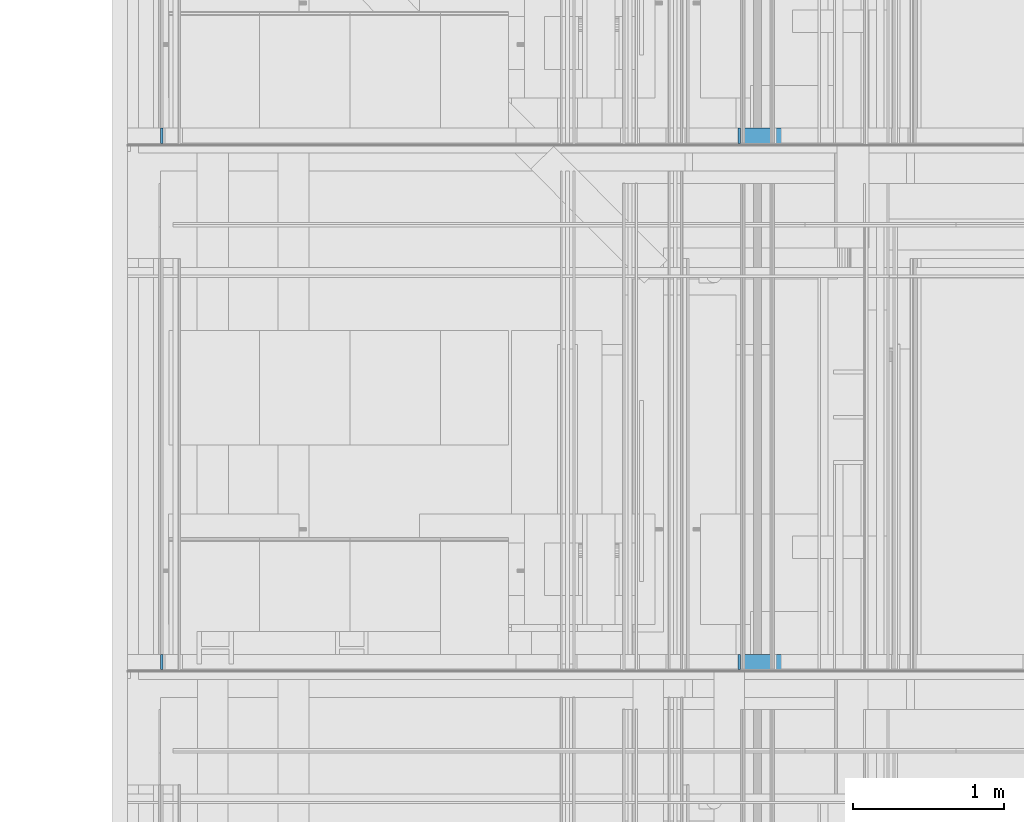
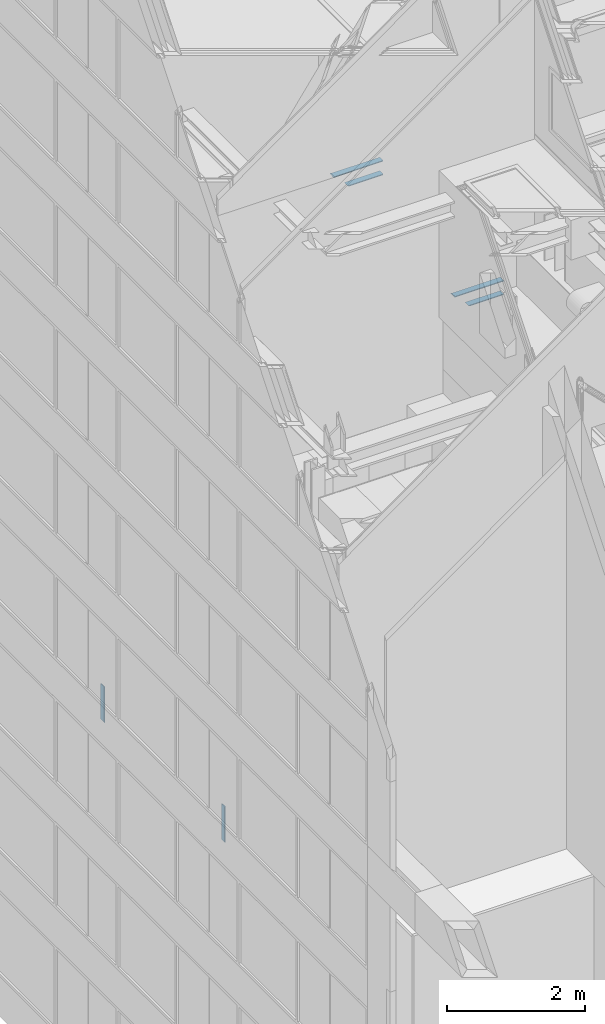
# One storey, part 31 of 583: 8 walls.
"""IFC2X3 building model written with IfcOpenShell, lengths in metres."""

import ifcopenshell
import ifcopenshell.guid

model = None  # the IFC model being written
_history = None  # IfcOwnerHistory: only IFC2X3 demands one
_inside = {}  # id of a spatial element -> (the spatial element, [elements in it])
_under = {}  # id of a project, library or spatial element -> (it, [spatial elements below it])
_declared = {}  # id of a project -> (the project, [libraries it declares])
_typed = {}  # id of a type object -> (the type object, [elements of that type])
_made_of = {}  # id of a material, layer set ... -> (it, [elements and type objects made of it])


def new_model(schema):
    """Start an empty IFC model of exactly this schema.

    Asked for "IFC4X3", IfcOpenShell would pick the latest addendum, in which some entities
    have other attributes; the version numbers below select the first issue.
    IFC2X3 requires an IfcOwnerHistory on every rooted entity: one is made here for all.
    """
    global model, _history
    if schema == "IFC4X3":
        model = ifcopenshell.file(schema_version=(4, 3, 0, 0))
    else:
        model = ifcopenshell.file(schema=schema)
    _inside.clear()
    _under.clear()
    _declared.clear()
    _typed.clear()
    _made_of.clear()
    _history = None
    if model.schema == "IFC2X3":
        org = make("IfcOrganization", Name="unknown")
        user = make(
            "IfcPersonAndOrganization",
            ThePerson=make("IfcPerson", FamilyName="unknown"),
            TheOrganization=org,
        )
        app = make(
            "IfcApplication",
            ApplicationDeveloper=org,
            Version="unknown",
            ApplicationFullName="unknown",
            ApplicationIdentifier="unknown",
        )
        _history = make(
            "IfcOwnerHistory",
            OwningUser=user,
            OwningApplication=app,
            ChangeAction="ADDED",
            CreationDate=0,
        )
    return model


def make(cls, **values):
    """One entity of the class cls with the attributes given. An attribute that is None is left unset."""
    return model.create_entity(
        cls, **{name: value for name, value in values.items() if value is not None}
    )


def entity(cls, *values):
    """Any entity or typed value of the class cls, its attributes in the order of the schema. None: left unset."""
    e = model.create_entity(cls)
    for i, value in enumerate(values):
        if value is not None:
            e[i] = value
    return e


def rooted(cls, **values):
    """An entity with a GlobalId (a new one), such as an element, a storey or a relation."""
    return make(cls, GlobalId=ifcopenshell.guid.new(), OwnerHistory=_history, **values)


def si_unit(unit_type, name, prefix=None):
    """IfcSIUnit, for example si_unit("LENGTHUNIT", "METRE", prefix="MILLI")."""
    return make("IfcSIUnit", UnitType=unit_type, Prefix=prefix, Name=name)


def converted_unit(unit_type, name, factor, base, dimensions=None, offset=None):
    """IfcConversionBasedUnit, such as the inch: factor (a typed value) times the base unit."""
    return make(
        "IfcConversionBasedUnit"
        if offset is None
        else "IfcConversionBasedUnitWithOffset",
        ConversionOffset=offset,
        Dimensions=None
        if dimensions is None
        else entity("IfcDimensionalExponents", *dimensions),
        UnitType=unit_type,
        Name=name,
        ConversionFactor=make(
            "IfcMeasureWithUnit", ValueComponent=factor, UnitComponent=base
        ),
    )


def derived_unit(unit_type, elements):
    """IfcDerivedUnit: a product of units, each with its exponent."""
    return make(
        "IfcDerivedUnit",
        Elements=[
            make("IfcDerivedUnitElement", Unit=unit, Exponent=power)
            for unit, power in elements
        ],
        UnitType=unit_type,
    )


def money_unit(currency):
    """IfcMonetaryUnit."""
    return make("IfcMonetaryUnit", Currency=currency)


def assignment(units):
    """IfcUnitAssignment: the units of a project."""
    return None if units is None else make("IfcUnitAssignment", Units=units)


def point(xyz):
    """IfcCartesianPoint."""
    return None if xyz is None else make("IfcCartesianPoint", Coordinates=xyz)


def direction(xyz):
    """IfcDirection."""
    return None if xyz is None else make("IfcDirection", DirectionRatios=xyz)


def frame(location, z_axis=None, x_axis=None):
    """IfcAxis2Placement3D, a coordinate frame: its origin and axes. An axis left out is left unset."""
    return make(
        "IfcAxis2Placement3D",
        Location=point(location),
        Axis=direction(z_axis),
        RefDirection=direction(x_axis),
    )


def frame_2d(location, x_axis=None):
    """IfcAxis2Placement2D, a coordinate frame in the plane: its origin and x axis."""
    return make(
        "IfcAxis2Placement2D", Location=point(location), RefDirection=direction(x_axis)
    )


def origin_with_axes():
    """The frame at (0, 0, 0) with the z axis (0, 0, 1) and the x axis (1, 0, 0) written out."""
    return frame((0.0, 0.0, 0.0), z_axis=(0.0, 0.0, 1.0), x_axis=(1.0, 0.0, 0.0))


def place(relative_to, where):
    """IfcLocalPlacement: puts the frame where relative to a parent placement (None: the world)."""
    return make(
        "IfcLocalPlacement", PlacementRelTo=relative_to, RelativePlacement=where
    )


def context(
    kind, dimensions, precision=None, world=None, true_north=None, identifier=None
):
    """IfcGeometricRepresentationContext, for example the 3D "Model" context."""
    return make(
        "IfcGeometricRepresentationContext",
        ContextIdentifier=identifier,
        ContextType=kind,
        CoordinateSpaceDimension=dimensions,
        Precision=precision,
        WorldCoordinateSystem=world,
        TrueNorth=true_north,
    )


def subcontext(parent, identifier, kind, view, scale=None):
    """IfcGeometricRepresentationSubContext, for example "Body" below "Model"."""
    return make(
        "IfcGeometricRepresentationSubContext",
        ContextIdentifier=identifier,
        ContextType=kind,
        ParentContext=parent,
        TargetScale=scale,
        TargetView=view,
    )


def project(units=None, contexts=None):
    """IfcProject with its units and contexts."""
    return rooted(
        "IfcProject",
        Name="project",
        RepresentationContexts=contexts,
        UnitsInContext=assignment(units),
    )


def spatial(cls, under=None, at=None, **own):
    """A site, building, storey or space (cls), placed at a placement, below another one or the project."""
    s = rooted(cls, ObjectPlacement=at, **own)
    if under is not None:
        _under.setdefault(under.id(), (under, []))[1].append(s)
    return s


def polyline(points):
    """IfcPolyline through the points."""
    return make("IfcPolyline", Points=[point(p) for p in points])


def profile(cls, at=None, kind="AREA", **sizes):
    """A parametric profile (cls). Its sizes go by their IFC names, for example OverallWidth=200.0."""
    return make(cls, ProfileType=kind, Position=at, **sizes)


def rectangle(**sizes):
    """IfcRectangleProfileDef."""
    return profile("IfcRectangleProfileDef", **sizes)


def outline(outer, holes=None, kind="AREA"):
    """IfcArbitraryClosedProfileDef: a profile drawn as a closed curve; with holes, ...WithVoids."""
    if holes is None:
        return make("IfcArbitraryClosedProfileDef", ProfileType=kind, OuterCurve=outer)
    return make(
        "IfcArbitraryProfileDefWithVoids",
        ProfileType=kind,
        OuterCurve=outer,
        InnerCurves=holes,
    )


def extrude(swept, where, along, depth):
    """IfcExtrudedAreaSolid: the profile swept, set in the frame where, extruded along a direction by depth."""
    return make(
        "IfcExtrudedAreaSolid",
        SweptArea=swept,
        Position=where,
        ExtrudedDirection=direction(along),
        Depth=depth,
    )


def shape(context_of_items, identifier, shape_type, items):
    """IfcShapeRepresentation: the items that make up one representation, for example the "Body"."""
    return make(
        "IfcShapeRepresentation",
        ContextOfItems=context_of_items,
        RepresentationIdentifier=identifier,
        RepresentationType=shape_type,
        Items=items,
    )


def material(Name=None, Category=None):
    """IfcMaterial."""
    return make("IfcMaterial", Name=Name, Category=Category)


def made_of(thing, what):
    """Note that an element or type object is made of a material, layer set ...; save() writes the relation."""
    if what is not None:
        _made_of.setdefault(what.id(), (what, []))[1].append(thing)
    return thing


def type_object(cls, material=None, **own):
    """A type object (cls), such as IfcWallType, which elements share."""
    return made_of(rooted(cls, **own), material)


def element(
    cls,
    number,
    at=None,
    inside=None,
    cuts=None,
    type_object=None,
    material=None,
    context=None,
    identifier="Body",
    shape_type=None,
    held_by="IfcProductDefinitionShape",
    body=None,
    shapes=None,
    **own,
):
    """One element of the class cls, such as IfcWall. Its Tag is "e" and its number.

    at: its placement. inside: the storey or other place that contains it. cuts: it is an
    opening in that element (IfcRelVoidsElement). A single representation is given by context,
    identifier, shape_type and body (its items); several are given by shapes. held_by: the class
    of the entity that holds the representations. save() writes the other relations.
    """
    e = rooted(cls, Tag="e%d" % number, ObjectPlacement=at, **own)
    if body is not None:
        shapes = [shape(context, identifier, shape_type, body)]
    if shapes is not None:
        e.Representation = make(held_by, Representations=shapes)
    if inside is not None:
        _inside.setdefault(inside.id(), (inside, []))[1].append(e)
    if cuts is not None:
        rooted(
            "IfcRelVoidsElement", RelatingBuildingElement=cuts, RelatedOpeningElement=e
        )
    if type_object is not None:
        _typed.setdefault(type_object.id(), (type_object, []))[1].append(e)
    return made_of(e, material)


def aggregate(whole, parts):
    """IfcRelAggregates: a whole, such as a stair, and the parts it consists of."""
    return rooted("IfcRelAggregates", RelatingObject=whole, RelatedObjects=parts)


def save(model, path):
    """Write the relations noted so far, then the file.

    IfcRelAggregates (storeys below a building ...), IfcRelContainedInSpatialStructure (elements
    in a storey), IfcRelDefinesByType, IfcRelAssociatesMaterial and IfcRelDeclares: one each for
    every whole, place, type object, material and project.
    """
    for whole, parts in _under.values():
        aggregate(whole, parts)
    for where, things in _inside.values():
        rooted(
            "IfcRelContainedInSpatialStructure",
            RelatedElements=things,
            RelatingStructure=where,
        )
    for kind, things in _typed.values():
        rooted("IfcRelDefinesByType", RelatedObjects=things, RelatingType=kind)
    for what, things in _made_of.values():
        rooted("IfcRelAssociatesMaterial", RelatedObjects=things, RelatingMaterial=what)
    for by, libraries in _declared.values():
        rooted("IfcRelDeclares", RelatingContext=by, RelatedDefinitions=libraries)
    model.write(path)


model = new_model("IFC2X3")

# Units and contexts
model_context = context("Model", 3, precision=1e-05, world=origin_with_axes(), true_north=direction((0.0, 1.0)))
body_context = subcontext(model_context, "Body", "Model", "MODEL_VIEW", scale=1.0)
ifc_project = project(units=[si_unit("LENGTHUNIT", "METRE"), si_unit("AREAUNIT", "SQUARE_METRE"), si_unit("VOLUMEUNIT", "CUBIC_METRE"), si_unit("ABSORBEDDOSEUNIT", "GRAY"), si_unit("AMOUNTOFSUBSTANCEUNIT", "MOLE"), si_unit("DOSEEQUIVALENTUNIT", "SIEVERT"), si_unit("ELECTRICCAPACITANCEUNIT", "FARAD"), si_unit("ELECTRICCHARGEUNIT", "COULOMB"), si_unit("ELECTRICCONDUCTANCEUNIT", "SIEMENS"), si_unit("ELECTRICCURRENTUNIT", "AMPERE"), si_unit("ELECTRICRESISTANCEUNIT", "OHM"), si_unit("ELECTRICVOLTAGEUNIT", "VOLT"), si_unit("ENERGYUNIT", "JOULE"), si_unit("FORCEUNIT", "NEWTON"), si_unit("FREQUENCYUNIT", "HERTZ"), si_unit("ILLUMINANCEUNIT", "LUX"), si_unit("INDUCTANCEUNIT", "HENRY"), si_unit("LUMINOUSFLUXUNIT", "LUMEN"), si_unit("LUMINOUSINTENSITYUNIT", "CANDELA"), si_unit("MAGNETICFLUXDENSITYUNIT", "TESLA"), si_unit("MAGNETICFLUXUNIT", "WEBER"), si_unit("MASSUNIT", "GRAM"), converted_unit("PLANEANGLEUNIT", "degree", entity("IfcReal", 0.0174532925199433), si_unit("PLANEANGLEUNIT", "RADIAN"), dimensions=[0, 0, 0, 0, 0, 0, 0]), si_unit("POWERUNIT", "WATT"), si_unit("PRESSUREUNIT", "PASCAL"), si_unit("RADIOACTIVITYUNIT", "BECQUEREL"), si_unit("SOLIDANGLEUNIT", "STERADIAN"), si_unit("THERMODYNAMICTEMPERATUREUNIT", "KELVIN"), si_unit("TIMEUNIT", "SECOND"), derived_unit("ACCELERATIONUNIT", [(si_unit("LENGTHUNIT", "METRE"), 1), (si_unit("TIMEUNIT", "SECOND"), -2)]), derived_unit("ANGULARVELOCITYUNIT", [(converted_unit("PLANEANGLEUNIT", "degree", entity("IfcReal", 0.0174532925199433), si_unit("PLANEANGLEUNIT", "RADIAN"), dimensions=[0, 0, 0, 0, 0, 0, 0]), 1), (si_unit("TIMEUNIT", "SECOND"), -1)]), derived_unit("CURVATUREUNIT", [(converted_unit("PLANEANGLEUNIT", "degree", entity("IfcReal", 0.0174532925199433), si_unit("PLANEANGLEUNIT", "RADIAN"), dimensions=[0, 0, 0, 0, 0, 0, 0]), 1), (si_unit("LENGTHUNIT", "METRE"), -1)]), derived_unit("DYNAMICVISCOSITYUNIT", [(si_unit("PRESSUREUNIT", "PASCAL"), 1), (si_unit("TIMEUNIT", "SECOND"), 1)]), derived_unit("HEATFLUXDENSITYUNIT", [(si_unit("POWERUNIT", "WATT"), 1), (si_unit("LENGTHUNIT", "METRE"), -2)]), derived_unit("HEATINGVALUEUNIT", [(si_unit("ENERGYUNIT", "JOULE"), 1), (si_unit("MASSUNIT", "GRAM"), -1)]), derived_unit("INTEGERCOUNTRATEUNIT", [(si_unit("TIMEUNIT", "SECOND"), -1)]), derived_unit("IONCONCENTRATIONUNIT", [(si_unit("MASSUNIT", "GRAM"), 1), (si_unit("VOLUMEUNIT", "CUBIC_METRE"), -1)]), derived_unit("ISOTHERMALMOISTURECAPACITYUNIT", [(si_unit("VOLUMEUNIT", "CUBIC_METRE"), 1), (si_unit("MASSUNIT", "GRAM"), -1)]), derived_unit("KINEMATICVISCOSITYUNIT", [(si_unit("AREAUNIT", "SQUARE_METRE"), 1), (si_unit("TIMEUNIT", "SECOND"), -1)]), derived_unit("LINEARFORCEUNIT", [(si_unit("FORCEUNIT", "NEWTON"), 1), (si_unit("LENGTHUNIT", "METRE"), -1)]), derived_unit("LINEARMOMENTUNIT", [(si_unit("FORCEUNIT", "NEWTON"), 1), (si_unit("LENGTHUNIT", "METRE"), -1)]), derived_unit("LINEARSTIFFNESSUNIT", [(si_unit("FORCEUNIT", "NEWTON"), 1), (si_unit("LENGTHUNIT", "METRE"), -1)]), derived_unit("LINEARVELOCITYUNIT", [(si_unit("LENGTHUNIT", "METRE"), 1), (si_unit("TIMEUNIT", "SECOND"), -1)]), derived_unit("LUMINOUSINTENSITYDISTRIBUTIONUNIT", [(si_unit("LUMINOUSINTENSITYUNIT", "CANDELA"), 1), (si_unit("LUMINOUSFLUXUNIT", "LUMEN"), -1)]), derived_unit("MASSDENSITYUNIT", [(si_unit("MASSUNIT", "GRAM"), 1), (si_unit("VOLUMEUNIT", "CUBIC_METRE"), -1)]), derived_unit("MASSFLOWRATEUNIT", [(si_unit("MASSUNIT", "GRAM"), 1), (si_unit("TIMEUNIT", "SECOND"), -1)]), derived_unit("MASSPERLENGTHUNIT", [(si_unit("MASSUNIT", "GRAM"), 1), (si_unit("LENGTHUNIT", "METRE"), -1)]), derived_unit("MODULUSOFELASTICITYUNIT", [(si_unit("FORCEUNIT", "NEWTON"), 1), (si_unit("AREAUNIT", "SQUARE_METRE"), -1)]), derived_unit("MODULUSOFLINEARSUBGRADEREACTIONUNIT", [(si_unit("FORCEUNIT", "NEWTON"), 1), (si_unit("LENGTHUNIT", "METRE"), -2)]), derived_unit("MODULUSOFROTATIONALSUBGRADEREACTIONUNIT", [(si_unit("FORCEUNIT", "NEWTON"), 1), (si_unit("LENGTHUNIT", "METRE"), 1)]), derived_unit("MODULUSOFSUBGRADEREACTIONUNIT", [(si_unit("FORCEUNIT", "NEWTON"), 1), (si_unit("VOLUMEUNIT", "CUBIC_METRE"), -1)]), derived_unit("MOISTUREDIFFUSIVITYUNIT", [(si_unit("VOLUMEUNIT", "CUBIC_METRE"), 1), (si_unit("TIMEUNIT", "SECOND"), -1)]), derived_unit("MOLECULARWEIGHTUNIT", [(si_unit("MASSUNIT", "GRAM"), 1), (si_unit("AMOUNTOFSUBSTANCEUNIT", "MOLE"), -1)]), derived_unit("PLANARFORCEUNIT", [(si_unit("FORCEUNIT", "NEWTON"), 1), (si_unit("LENGTHUNIT", "METRE"), -2)]), derived_unit("ROTATIONALFREQUENCYUNIT", [(si_unit("TIMEUNIT", "SECOND"), -1)]), derived_unit("ROTATIONALMASSUNIT", [(si_unit("MASSUNIT", "GRAM"), 1), (si_unit("LENGTHUNIT", "METRE"), 2)]), derived_unit("ROTATIONALSTIFFNESSUNIT", [(si_unit("FORCEUNIT", "NEWTON"), 1), (si_unit("LENGTHUNIT", "METRE"), 1), (converted_unit("PLANEANGLEUNIT", "degree", entity("IfcReal", 0.0174532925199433), si_unit("PLANEANGLEUNIT", "RADIAN"), dimensions=[0, 0, 0, 0, 0, 0, 0]), -1)]), derived_unit("SECTIONAREAINTEGRALUNIT", [(si_unit("LENGTHUNIT", "METRE"), 5)]), derived_unit("SECTIONMODULUSUNIT", [(si_unit("LENGTHUNIT", "METRE"), 3)]), derived_unit("SHEARMODULUSUNIT", [(si_unit("FORCEUNIT", "NEWTON"), 1), (si_unit("AREAUNIT", "SQUARE_METRE"), -1)]), derived_unit("SOUNDPOWERUNIT", [(si_unit("ENERGYUNIT", "JOULE"), 1), (si_unit("TIMEUNIT", "SECOND"), -1)]), derived_unit("SPECIFICHEATCAPACITYUNIT", [(si_unit("FORCEUNIT", "NEWTON"), 1), (si_unit("MASSUNIT", "GRAM"), -1), (si_unit("THERMODYNAMICTEMPERATUREUNIT", "KELVIN"), -1)]), derived_unit("TEMPERATUREGRADIENTUNIT", [(si_unit("THERMODYNAMICTEMPERATUREUNIT", "KELVIN"), 1), (si_unit("LENGTHUNIT", "METRE"), -1)]), derived_unit("THERMALADMITTANCEUNIT", [(si_unit("POWERUNIT", "WATT"), 1), (si_unit("AREAUNIT", "SQUARE_METRE"), -1), (si_unit("THERMODYNAMICTEMPERATUREUNIT", "KELVIN"), -1)]), derived_unit("THERMALCONDUCTANCEUNIT", [(si_unit("POWERUNIT", "WATT"), 1), (si_unit("LENGTHUNIT", "METRE"), -1), (si_unit("THERMODYNAMICTEMPERATUREUNIT", "KELVIN"), -1)]), derived_unit("THERMALEXPANSIONCOEFFICIENTUNIT", [(si_unit("THERMODYNAMICTEMPERATUREUNIT", "KELVIN"), -1)]), derived_unit("THERMALRESISTANCEUNIT", [(si_unit("AREAUNIT", "SQUARE_METRE"), 1), (si_unit("POWERUNIT", "WATT"), -1)]), derived_unit("THERMALTRANSMITTANCEUNIT", [(si_unit("POWERUNIT", "WATT"), 1), (si_unit("AREAUNIT", "SQUARE_METRE"), -1), (si_unit("THERMODYNAMICTEMPERATUREUNIT", "KELVIN"), -1)]), derived_unit("TORQUEUNIT", [(si_unit("FORCEUNIT", "NEWTON"), 1), (si_unit("LENGTHUNIT", "METRE"), 1)]), derived_unit("VAPORPERMEABILITYUNIT", [(si_unit("MASSUNIT", "GRAM"), 1), (si_unit("TIMEUNIT", "SECOND"), -1)]), derived_unit("VOLUMETRICFLOWRATEUNIT", [(si_unit("VOLUMEUNIT", "CUBIC_METRE"), 1), (si_unit("TIMEUNIT", "SECOND"), -1)]), derived_unit("WARPINGCONSTANTUNIT", [(si_unit("LENGTHUNIT", "METRE"), 6)]), derived_unit("WARPINGMOMENTUNIT", [(si_unit("FORCEUNIT", "NEWTON"), 1), (si_unit("LENGTHUNIT", "METRE"), 2)]), money_unit("GBP")], contexts=[model_context])

# Site, building, storey
site_placement = place(None, origin_with_axes())
site = spatial("IfcSite", under=ifc_project, at=site_placement, Name="Site", CompositionType="ELEMENT")
building_placement = place(site_placement, origin_with_axes())
building = spatial("IfcBuilding", under=site, at=building_placement, Name="Building01", CompositionType="ELEMENT")
storey_placement = place(building_placement, frame((0.0, 0.0, 20.78), z_axis=(0.0, 0.0, 1.0), x_axis=(1.0, 0.0, 0.0)))
storey = spatial("IfcBuildingStorey", under=building, at=storey_placement, Name="RL", CompositionType="ELEMENT", Elevation=20.78)

# Walls
ifc_material = material(Name="A_BSUK_Walls_Timber")
wall_type = type_object("IfcWallType", Name="default", PredefinedType="NOTDEFINED")
wall_1_placement = place(storey_placement, frame((4.965, 12.145, -6.17), z_axis=(0.0, 1.0, 0.0), x_axis=(-1.0, 0.0, 0.0)))
element("IfcWall", 1, at=wall_1_placement, inside=storey, type_object=wall_type, material=ifc_material, Name="default", ObjectType="default", context=body_context, shape_type="SweptSolid", body=[
    extrude(outline(polyline([(0.575572, 0.015), (-0.015, 0.015), (0.0, 0.0), (0.560572, 0.0), (0.575572, 0.015)])), origin_with_axes(), (0.0, 0.0, 1.0), 0.1),
])
wall_2_placement = place(storey_placement, frame((4.98, 12.145, -5.93), z_axis=(0.0, 1.0, 0.0), x_axis=(-1.0, 0.0, 0.0)))
element("IfcWall", 2, at=wall_2_placement, inside=storey, type_object=wall_type, material=ifc_material, Name="default", ObjectType="default", context=body_context, shape_type="SweptSolid", body=[
    extrude(rectangle(XDim=0.815572, YDim=0.015, at=frame_2d((0.407786, 0.0075), x_axis=(-1.0, 0.0))), origin_with_axes(), (0.0, 0.0, 1.0), 0.1),
])
wall_3_placement = place(storey_placement, frame((0.318, 12.145, -14.205), z_axis=(0.0, 1.0, 0.0), x_axis=(0.0, 0.0, 1.0)))
element("IfcWall", 3, at=wall_3_placement, inside=storey, type_object=wall_type, material=ifc_material, Name="default", ObjectType="default", context=body_context, shape_type="SweptSolid", body=[
    extrude(outline(polyline([(0.625, 0.015), (-0.015, 0.015), (0.0, 0.0), (0.625, 0.0), (0.625, 0.015)])), origin_with_axes(), (0.0, 0.0, 1.0), 0.1),
])
wall_4_placement = place(storey_placement, frame((4.164443, 12.145, -5.93), z_axis=(0.0, 1.0, 0.0), x_axis=(1.0, 0.0, 0.0)))
element("IfcWall", 4, at=wall_4_placement, inside=storey, type_object=wall_type, material=ifc_material, Name="default", ObjectType="default", context=body_context, shape_type="SweptSolid", body=[
    extrude(outline(polyline([(-0.015015, -0.015), (0.0, -0.015), (0.0, 0.0), (-1.5e-05, 0.0), (-0.015015, -0.015)])), origin_with_axes(), (0.0, 0.0, 1.0), 0.1),
])
wall_5_placement = place(storey_placement, frame((4.965, 8.655, -6.17), z_axis=(0.0, 1.0, 0.0), x_axis=(-1.0, 0.0, 0.0)))
element("IfcWall", 5, at=wall_5_placement, inside=storey, type_object=wall_type, material=ifc_material, Name="default", ObjectType="default", context=body_context, shape_type="SweptSolid", body=[
    extrude(outline(polyline([(0.575572, 0.015), (-0.015, 0.015), (0.0, 0.0), (0.560572, 0.0), (0.575572, 0.015)])), origin_with_axes(), (0.0, 0.0, 1.0), 0.1),
])
wall_6_placement = place(storey_placement, frame((4.98, 8.655, -5.93), z_axis=(0.0, 1.0, 0.0), x_axis=(-1.0, 0.0, 0.0)))
element("IfcWall", 6, at=wall_6_placement, inside=storey, type_object=wall_type, material=ifc_material, Name="default", ObjectType="default", context=body_context, shape_type="SweptSolid", body=[
    extrude(rectangle(XDim=0.815572, YDim=0.015, at=frame_2d((0.407786, 0.0075), x_axis=(-1.0, 0.0))), origin_with_axes(), (0.0, 0.0, 1.0), 0.1),
])
wall_7_placement = place(storey_placement, frame((0.318, 8.655, -14.205), z_axis=(0.0, 1.0, 0.0), x_axis=(0.0, 0.0, 1.0)))
element("IfcWall", 7, at=wall_7_placement, inside=storey, type_object=wall_type, material=ifc_material, Name="default", ObjectType="default", context=body_context, shape_type="SweptSolid", body=[
    extrude(outline(polyline([(0.625, 0.015), (-0.015, 0.015), (0.0, 0.0), (0.625, 0.0), (0.625, 0.015)])), origin_with_axes(), (0.0, 0.0, 1.0), 0.1),
])
wall_8_placement = place(storey_placement, frame((4.164443, 8.655, -5.93), z_axis=(0.0, 1.0, 0.0), x_axis=(1.0, 0.0, 0.0)))
element("IfcWall", 8, at=wall_8_placement, inside=storey, type_object=wall_type, material=ifc_material, Name="default", ObjectType="default", context=body_context, shape_type="SweptSolid", body=[
    extrude(outline(polyline([(-0.015015, -0.015), (0.0, -0.015), (0.0, 0.0), (-1.5e-05, 0.0), (-0.015015, -0.015)])), origin_with_axes(), (0.0, 0.0, 1.0), 0.1),
])

save(model, "model.ifc")
